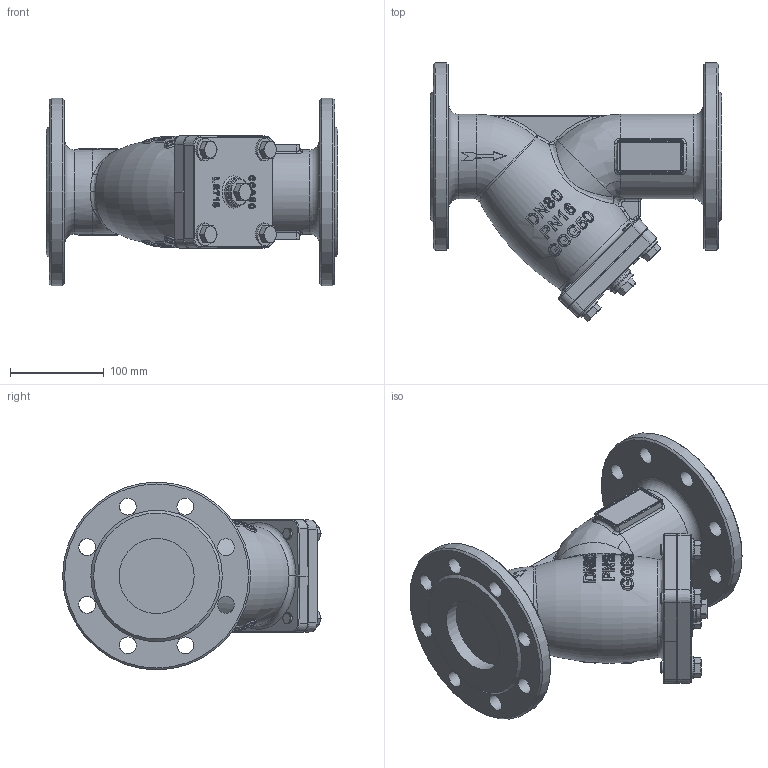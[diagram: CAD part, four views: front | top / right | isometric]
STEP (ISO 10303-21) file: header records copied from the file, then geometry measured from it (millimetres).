
FILE_DESCRIPTION (( 'STEP AP214' ), '1' );
FILE_NAME ('DN80.STEP', '2026-09-13T03:35:31', ( '' ), ( '' ), 'SwSTEP 2.0', 'SolidWorks 2024', '' );
FILE_SCHEMA (( 'AUTOMOTIVE_DESIGN' ));
Length unit declared in the file: millimetre
Products named in the file (1): DN80
Bounding box: 310 x 275.36 x 200 mm (x, y, z)
Volume: 3916759.8 mm3; surface area: 327891.5 mm2
Topology: 1 solids, 5 shells, 1099 faces, 2863 edges, 1860 vertices
Faces by surface type: bspline 690, plane 190, cylinder 113, torus 58, cone 48
Full cylindrical faces by diameter (mm): 12 x8, 13.5 x4, 14 x4, 18 x16, 20.92 x1, 22 x1, 24 x4, 27 x1, 28 x1, 80 x2, 90 x2, 94 x1, 95 x1, 200 x2
Entity records: 69345 total; most frequent: CARTESIAN_POINT 38289, ORIENTED_EDGE 5476, EDGE_CURVE 2738, B_SPLINE_CURVE_WITH_KNOTS 2028, DIRECTION 1818, VERTEX_POINT 1807, EDGE_LOOP 1299, FACE_OUTER_BOUND 1151
